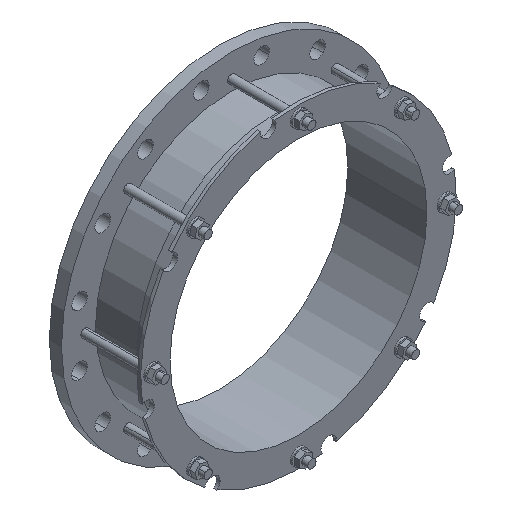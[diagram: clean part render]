
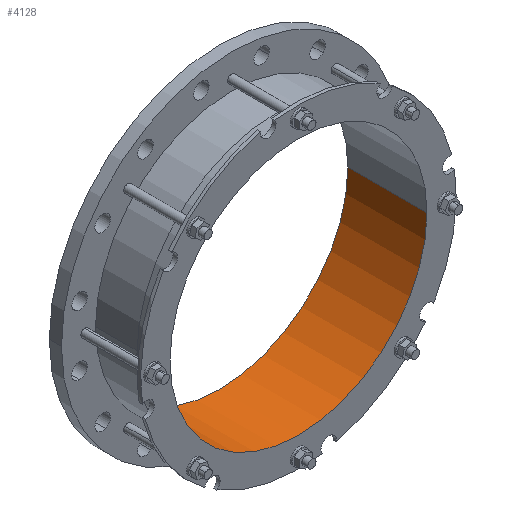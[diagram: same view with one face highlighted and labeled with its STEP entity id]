
A CAD part, isometric view. The second image highlights one B-rep face of the part: STEP entity #4128.
In plain terms, the highlighted cylindrical face has radius 190.75 mm (diameter 381.5 mm), a partial arc.
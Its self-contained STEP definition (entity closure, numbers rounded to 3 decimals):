
#7=CARTESIAN_POINT('',(0.,18.,0.));
#8=DIRECTION('',(0.,1.,0.));
#9=DIRECTION('',(1.,0.,0.));
#10=AXIS2_PLACEMENT_3D('',#7,#8,#9);
#935=CARTESIAN_POINT('',(0.,-99.452,0.));
#936=DIRECTION('',(0.,1.,0.));
#937=DIRECTION('',(1.,0.,0.));
#938=AXIS2_PLACEMENT_3D('',#935,#936,#937);
#940=DIRECTION('',(0.,1.,0.));
#941=VECTOR('',#940,117.452);
#942=CARTESIAN_POINT('',(190.75,-99.452,0.));
#943=LINE('',#942,#941);
#944=DIRECTION('',(0.,1.,0.));
#945=VECTOR('',#944,117.452);
#946=CARTESIAN_POINT('',(-190.75,-99.452,0.));
#947=LINE('',#946,#945);
#2869=CARTESIAN_POINT('',(190.75,-99.452,0.));
#2870=CARTESIAN_POINT('',(190.75,18.,0.));
#2871=VERTEX_POINT('',#2869);
#2872=VERTEX_POINT('',#2870);
#2877=CARTESIAN_POINT('',(-190.75,-99.452,0.));
#2878=CARTESIAN_POINT('',(-190.75,18.,0.));
#2879=VERTEX_POINT('',#2877);
#2880=VERTEX_POINT('',#2878);
#4115=CARTESIAN_POINT('',(0.,-105.325,0.));
#4116=DIRECTION('',(0.,1.,0.));
#4117=DIRECTION('',(-1.,0.,0.));
#4118=AXIS2_PLACEMENT_3D('',#4115,#4116,#4117);
#4119=CYLINDRICAL_SURFACE('',#4118,190.75);
#4121=ORIENTED_EDGE('',*,*,#4120,.F.);
#4122=ORIENTED_EDGE('',*,*,#4108,.T.);
#4124=ORIENTED_EDGE('',*,*,#4123,.T.);
#4125=ORIENTED_EDGE('',*,*,#3510,.F.);
#4126=EDGE_LOOP('',(#4121,#4122,#4124,#4125));
#4127=FACE_OUTER_BOUND('',#4126,.F.);
#4128=ADVANCED_FACE('',(#4127),#4119,.F.);
#11=CIRCLE('',#10,190.75);
#939=CIRCLE('',#938,190.75);
#3510=EDGE_CURVE('',#2872,#2880,#11,.T.);
#4108=EDGE_CURVE('',#2871,#2879,#939,.T.);
#4120=EDGE_CURVE('',#2871,#2872,#943,.T.);
#4123=EDGE_CURVE('',#2879,#2880,#947,.T.);
